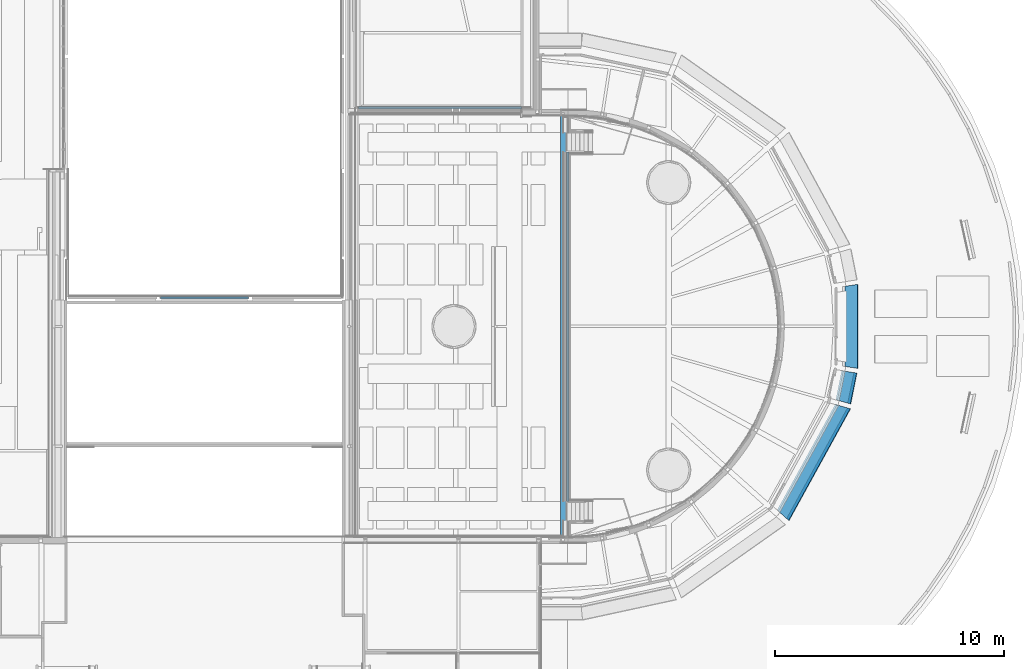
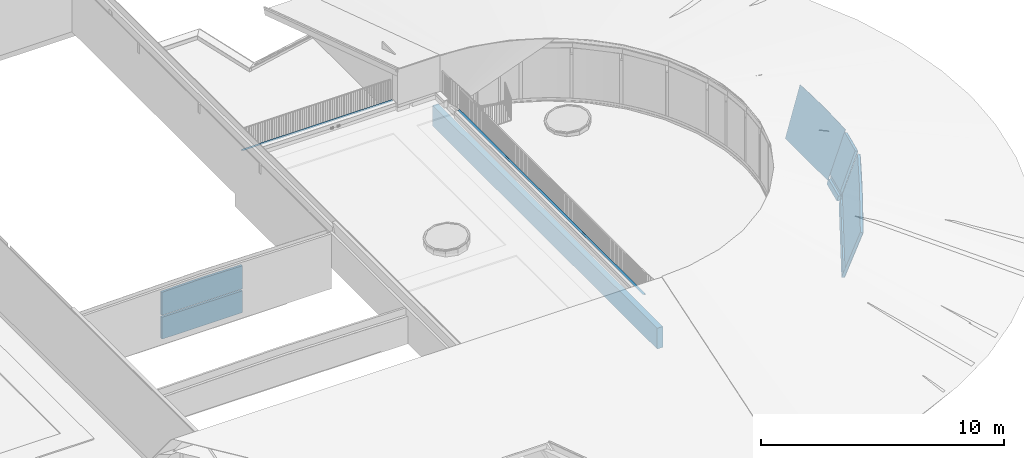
# One storey, part 50 of 66: 9 walls.
"""IFC2X3 building model written with IfcOpenShell, lengths in millimetres."""

from ifc_helpers import new_model, entity, si_unit, converted_unit, derived_unit, direction, frame, origin, place, context, subcontext, project, spatial, faceted_brep, material, layer, layer_set, type_object, element, save


model = new_model("IFC2X3")

# Units and contexts
model_context = context("Model", 3, precision=0.01, world=origin(), true_north=direction((6.12303176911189e-17, 1.0)))
body_context = subcontext(model_context, "Body", "Model", "MODEL_VIEW")
ifc_project = project(units=[si_unit("LENGTHUNIT", "METRE", prefix="MILLI"), si_unit("AREAUNIT", "SQUARE_METRE"), si_unit("VOLUMEUNIT", "CUBIC_METRE"), converted_unit("PLANEANGLEUNIT", "DEGREE", entity("IfcRatioMeasure", 0.0174532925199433), si_unit("PLANEANGLEUNIT", "RADIAN"), dimensions=[0, 0, 0, 0, 0, 0, 0]), si_unit("MASSUNIT", "GRAM", prefix="KILO"), derived_unit("MASSDENSITYUNIT", [(si_unit("MASSUNIT", "GRAM", prefix="KILO"), 1), (si_unit("LENGTHUNIT", "METRE"), -3)]), derived_unit("MOMENTOFINERTIAUNIT", [(si_unit("LENGTHUNIT", "METRE"), 4)]), si_unit("TIMEUNIT", "SECOND"), si_unit("FREQUENCYUNIT", "HERTZ"), si_unit("THERMODYNAMICTEMPERATUREUNIT", "DEGREE_CELSIUS"), derived_unit("THERMALTRANSMITTANCEUNIT", [(si_unit("MASSUNIT", "GRAM", prefix="KILO"), 1), (si_unit("THERMODYNAMICTEMPERATUREUNIT", "KELVIN"), -1), (si_unit("TIMEUNIT", "SECOND"), -3)]), derived_unit("VOLUMETRICFLOWRATEUNIT", [(si_unit("LENGTHUNIT", "METRE"), 3), (si_unit("TIMEUNIT", "SECOND"), -1)]), si_unit("ELECTRICCURRENTUNIT", "AMPERE"), si_unit("ELECTRICVOLTAGEUNIT", "VOLT"), si_unit("POWERUNIT", "WATT"), si_unit("FORCEUNIT", "NEWTON", prefix="KILO"), si_unit("ILLUMINANCEUNIT", "LUX"), si_unit("LUMINOUSFLUXUNIT", "LUMEN"), si_unit("LUMINOUSINTENSITYUNIT", "CANDELA"), derived_unit("USERDEFINED", [(si_unit("MASSUNIT", "GRAM", prefix="KILO"), -1), (si_unit("LENGTHUNIT", "METRE"), -2), (si_unit("TIMEUNIT", "SECOND"), 3), (si_unit("LUMINOUSFLUXUNIT", "LUMEN"), 1)]), derived_unit("LINEARVELOCITYUNIT", [(si_unit("LENGTHUNIT", "METRE"), 1), (si_unit("TIMEUNIT", "SECOND"), -1)]), si_unit("PRESSUREUNIT", "PASCAL"), derived_unit("USERDEFINED", [(si_unit("LENGTHUNIT", "METRE"), -2), (si_unit("MASSUNIT", "GRAM", prefix="KILO"), 1), (si_unit("TIMEUNIT", "SECOND"), -2)]), derived_unit("LINEARFORCEUNIT", [(si_unit("MASSUNIT", "GRAM", prefix="KILO"), 1), (si_unit("LENGTHUNIT", "METRE"), 1), (si_unit("TIMEUNIT", "SECOND"), -2), (si_unit("LENGTHUNIT", "METRE"), -1)]), derived_unit("PLANARFORCEUNIT", [(si_unit("MASSUNIT", "GRAM", prefix="KILO"), 1), (si_unit("LENGTHUNIT", "METRE"), 1), (si_unit("TIMEUNIT", "SECOND"), -2), (si_unit("LENGTHUNIT", "METRE"), -2)])], contexts=[model_context])

# Site, building, storey
site_placement = place(None, origin())
site = spatial("IfcSite", under=ifc_project, at=site_placement, Name="Default", CompositionType="ELEMENT")
building_placement = place(site_placement, origin())
building = spatial("IfcBuilding", under=site, at=building_placement, Name="-", CompositionType="ELEMENT")
storey_placement = place(building_placement, frame((0.0, 0.0, 3070.0)))
storey = spatial("IfcBuildingStorey", under=building, at=storey_placement, Name="01 eerste verdieping", CompositionType="ELEMENT", Elevation=3070.00000000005)

# Walls
ifc_material_1 = material(Name="NLRS_i4_hout_multiplex")
ifc_layer_1 = layer(ifc_material_1, 9.0)
ifc_material_2 = material(Name="NLRS_m1_isolatie")
ifc_layer_2 = layer(ifc_material_2, 89.0)
ifc_layer_3 = layer(ifc_material_1, 9.0)
ifc_layer_set_1 = layer_set([ifc_layer_1, ifc_layer_2, ifc_layer_3], Name="Basic Wall:NLRS_21_WA_HSB-wand_110mm")
wall_type_1 = type_object("IfcWallType", Name="Basic Wall:NLRS_21_WA_HSB-wand_110mm", PredefinedType="STANDARD", material=ifc_layer_set_1)
wall_1_placement = place(storey_placement, frame((36697.0, 20876.8202504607, 345.0), z_axis=(0.0, 0.0, 1.0), x_axis=(-1.0, 0.0, 0.0)))
element("IfcWall", 1, at=wall_1_placement, inside=storey, type_object=wall_type_1, Name="Basic Wall:NLRS_21_WA_HSB-wand_110mm", ObjectType="Basic Wall:NLRS_21_WA_HSB-wand_110mm", context=body_context, shape_type="Brep", body=[
    faceted_brep([(0.0, -53.5000000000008, 1200.0), (3834.0, -53.5000000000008, 1200.0), (3834.0, -53.5000000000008, 2355.23256308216), (1992.00471047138, -53.5000000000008, 2382.96524468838), (0.0, -53.5000000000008, 2355.28132040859), (0.0, 53.5000000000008, 2355.28132040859), (0.0, 53.5000000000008, 1200.0), (3834.0, 53.5000000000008, 2355.23256308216), (1992.00471047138, 53.5000000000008, 2382.96524468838), (3834.0, 53.5000000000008, 1200.0)], [[[0, 1, 2, 3, 4]], [[0, 4, 5, 6]], [[3, 2, 7, 8]], [[4, 3, 8, 5]], [[1, 0, 6, 9]], [[2, 1, 9, 7]], [[6, 5, 8, 7, 9]]]),
    faceted_brep([(3834.0, 53.5000000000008, 0.0), (0.0, 53.5000000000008, 0.0), (0.0, 53.5000000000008, 1100.0), (3834.0, 53.5000000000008, 1100.0), (3834.0, -53.5000000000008, 0.0), (0.0, -53.5000000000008, 0.0), (3834.0, -53.5000000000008, 1100.0), (0.0, -53.5000000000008, 1100.0)], [[[0, 1, 2, 3]], [[4, 5, 1, 0]], [[6, 4, 0, 3]], [[7, 6, 3, 2]], [[5, 7, 2, 1]], [[4, 6, 7, 5]]]),
])
ifc_material_3 = material(Name="NLRS_f7_gipsplaat_gen")
ifc_layer_4 = layer(ifc_material_3, 12.5)
ifc_layer_5 = layer(ifc_material_2, 89.0)
ifc_layer_6 = layer(ifc_material_3, 12.5)
ifc_layer_set_2 = layer_set([ifc_layer_4, ifc_layer_5, ifc_layer_6], Name="Basic Wall:NLRS_21_WA_HSB-wand_114mm")
wall_type_2 = type_object("IfcWallType", Name="Basic Wall:NLRS_21_WA_HSB-wand_114mm", PredefinedType="STANDARD", material=ifc_layer_set_2)
wall_2_placement = place(storey_placement, frame((59848.3416721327, 11330.7534068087, -370.0), z_axis=(0.0, 0.0, 1.0), x_axis=(0.481945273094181, 0.876201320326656, 0.0)))
element("IfcWall", 2, at=wall_2_placement, inside=storey, type_object=wall_type_2, Name="Basic Wall:NLRS_21_WA_HSB-wand_114mm", ObjectType="Basic Wall:NLRS_21_WA_HSB-wand_114mm", context=body_context, shape_type="Brep", body=[
    faceted_brep([(176.081026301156, 60.2869408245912, 0.0), (5496.69712505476, 60.2869408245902, 0.0), (5672.6679390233, -701.926394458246, 2345.85143381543), (5190.49208128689, -706.460796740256, 2359.8068890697), (4708.3162235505, -710.995199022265, 2373.76234432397), (4096.82103948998, -716.745725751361, 2391.46064576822), (3308.89758972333, -724.155391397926, 2414.26525174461), (2914.93586484, -727.860224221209, 2425.6675547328), (2520.97413995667, -731.565057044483, 2437.069857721), (2324.79369253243, -729.295746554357, 2430.08563818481), (2128.6132451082, -727.026436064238, 2423.10141864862), (1736.25235025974, -722.487815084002, 2409.13297957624), (1343.89145541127, -717.949194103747, 2395.16454050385), (951.530560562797, -713.410573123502, 2381.19610143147), (475.765280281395, -707.907174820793, 2364.25838307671), (0.0, -702.403776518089, 2347.32066472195), (24.9682156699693, -594.254552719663, 2383.38332851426), (172.44401529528, 33.2899316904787, 452.0), (203.754433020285, 180.153634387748, 0.0), (415.46831583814, -597.859455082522, 2394.47807716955), (805.968416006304, -601.464357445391, 2405.57282582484), (1196.46851617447, -605.069259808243, 2416.66757448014), (1586.96861634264, -608.674162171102, 2427.76232313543), (1977.46871651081, -612.27906453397, 2438.85707179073), (2172.71876659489, -614.081515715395, 2444.40444611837), (2367.96881667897, -615.883966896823, 2449.95182044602), (2563.21886676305, -617.686418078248, 2455.49919477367), (2758.46891684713, -619.488869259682, 2461.04656910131), (3148.9690170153, -623.093771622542, 2472.14131775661), (5497.79835518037, 33.2899316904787, 452.0), (3773.65170222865, -615.764658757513, 2449.58462774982), (4398.33438744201, -608.435545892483, 2427.02793774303), (5023.01707265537, -601.106433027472, 2404.47124773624), (5647.69975786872, -593.777320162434, 2381.91455772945), (5469.02371833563, 180.153634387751, 0.0), (5481.22034460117, 105.097184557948, 231.0), (189.002534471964, 105.09718455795, 231.0), (12.4841079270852, -648.329164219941, 2365.35199988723), (5504.30716371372, 5.0971845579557, 231.0), (5504.30716371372, 5.0971845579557, 452.0), (165.94285941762, 5.09718455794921, 231.0), (165.94285941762, 5.09718455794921, 452.0), (5660.18384838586, -647.851857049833, 2363.88299790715)], [[[0, 1, 2, 3, 4, 5, 6, 7, 8, 9, 10, 11, 12, 13, 14, 15]], [[16, 17, 18]], [[17, 16, 19]], [[17, 19, 20]], [[17, 20, 21]], [[17, 21, 22]], [[17, 22, 23]], [[17, 23, 24]], [[17, 24, 25]], [[17, 25, 26]], [[17, 26, 27]], [[17, 27, 28]], [[28, 29, 17]], [[29, 28, 30]], [[29, 30, 31]], [[29, 31, 32]], [[29, 32, 33]], [[34, 29, 33]], [[34, 35, 29]], [[18, 35, 34]], [[18, 36, 35]], [[36, 18, 17]], [[0, 18, 34, 1]], [[0, 15, 37, 16, 18]], [[29, 35, 38, 39]], [[39, 38, 40, 41]], [[17, 41, 40, 36]], [[29, 39, 41, 17]], [[36, 40, 38, 35]], [[4, 31, 5]], [[8, 27, 26, 25]], [[28, 6, 30]], [[13, 21, 20]], [[3, 2, 42]], [[32, 31, 4]], [[14, 19, 37]], [[16, 37, 19]], [[25, 9, 8]], [[11, 10, 23]], [[37, 15, 14]], [[13, 20, 14]], [[7, 28, 27]], [[5, 31, 30]], [[22, 12, 11]], [[28, 7, 6]], [[33, 3, 42]], [[14, 20, 19]], [[32, 4, 3]], [[3, 33, 32]], [[12, 22, 21]], [[5, 30, 6]], [[27, 8, 7]], [[21, 13, 12]], [[11, 23, 22]], [[24, 9, 25]], [[10, 24, 23]], [[9, 24, 10]], [[33, 42, 2, 1, 34]]]),
])
wall_3_placement = place(storey_placement, frame((62513.8499300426, 16312.6309043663, -370.0), z_axis=(0.0, 0.0, 1.0), x_axis=(0.197234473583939, 0.980356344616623, 0.0)))
element("IfcWall", 3, at=wall_3_placement, inside=storey, type_object=wall_type_2, Name="Basic Wall:NLRS_21_WA_HSB-wand_114mm", ObjectType="Basic Wall:NLRS_21_WA_HSB-wand_114mm", context=body_context, shape_type="Brep", body=[
    faceted_brep([(57.4449768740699, 33.2899316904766, 452.0), (8.4110085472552, -598.593519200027, 2396.73729421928), (780.651706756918, -601.471035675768, 2405.59337930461), (1398.48558250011, -600.593854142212, 2402.89369213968), (1368.43379271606, 33.2899316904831, 452.0), (68.8415566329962, 180.153634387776, 0.0), (63.0171983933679, 105.097184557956, 231.0), (1365.02948341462, 105.097184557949, 231.0), (1361.47113296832, 180.153634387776, 0.0), (0.0, -706.983218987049, 2361.41473941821), (59.5399367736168, 60.2869408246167, 0.0), (1367.1538917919, 60.2869408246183, 0.0), (1403.62515270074, -709.003045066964, 2367.6311248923), (623.803365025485, -709.666413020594, 2369.67276152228), (55.257228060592, 5.09718455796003, 452.0), (1369.77038237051, 5.09718455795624, 452.0), (1369.77038237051, 5.09718455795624, 231.0), (55.2572280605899, 5.09718455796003, 231.0), (1401.05536757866, -654.798449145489, 2385.26241134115), (4.20550430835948, -652.788368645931, 2379.07601962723)], [[[0, 1, 2, 3, 4]], [[5, 6, 7, 8]], [[9, 10, 11, 12, 13]], [[10, 5, 8, 11]], [[14, 15, 16, 17]], [[0, 4, 15, 14]], [[16, 7, 6, 17]], [[7, 16, 15, 4, 3, 18, 12, 11, 8]], [[19, 1, 0, 14, 17, 6, 5, 10, 9]], [[3, 2, 18]], [[13, 12, 18]], [[18, 2, 13]], [[1, 19, 13]], [[9, 13, 19]], [[1, 13, 2]]]),
])
ifc_layer_7 = layer(ifc_material_1, 10.0)
ifc_layer_8 = layer(ifc_material_2, 235.0)
ifc_layer_9 = layer(ifc_material_1, 10.0)
ifc_layer_10 = layer(ifc_material_3, 12.5)
ifc_layer_set_3 = layer_set([ifc_layer_7, ifc_layer_8, ifc_layer_9, ifc_layer_10], Name="Basic Wall:NLRS_21_WA_HSB-wand_268mm")
wall_type_3 = type_object("IfcWallType", Name="Basic Wall:NLRS_21_WA_HSB-wand_268mm", PredefinedType="STANDARD", material=ifc_layer_set_3)
wall_4_placement = place(storey_placement, frame((50465.3703901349, 28817.4953625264, 82.0), z_axis=(0.0, 0.0, 1.0), x_axis=(0.0, -1.0, 0.0)))
element("IfcWall", 4, at=wall_4_placement, inside=storey, type_object=wall_type_3, Name="Basic Wall:NLRS_21_WA_HSB-wand_268mm", ObjectType="Basic Wall:NLRS_21_WA_HSB-wand_268mm", context=body_context, shape_type="Brep", body=[
    faceted_brep([(0.0, -133.750000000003, 0.0), (18453.8712671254, -133.750000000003, 0.0), (18453.8712671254, -133.750000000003, 1040.0), (0.0, -133.750000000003, 1040.0), (18453.8712671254, 133.749999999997, 1040.0), (18453.8712671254, 133.749999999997, 18.0), (18453.8712671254, 133.749999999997, 0.0), (18400.799275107, 133.749999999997, 0.0), (18400.799275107, 133.749999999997, 18.0), (9256.43563356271, 133.749999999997, 18.0), (9256.43563356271, 133.749999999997, 0.0), (9146.43563356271, 133.749999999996, 0.0), (9146.4356335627, 133.749999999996, 18.0), (49.2381053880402, 133.749999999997, 18.0), (49.2381053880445, 133.749999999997, 0.0), (0.0, 133.749999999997, 0.0), (0.0, 133.749999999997, 1040.0), (18402.8712671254, 133.749999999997, 1040.0), (36.097360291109, 53.7500000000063, 0.0), (9146.43563356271, 53.750000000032, 0.0), (9256.43563356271, 53.0848780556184, 0.0), (18415.0802653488, 53.0848780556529, 0.0), (18453.8712671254, 106.250000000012, 1040.0), (9256.43563356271, 53.0848780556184, 18.0), (18415.0802653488, 53.0848780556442, 18.0), (9146.4356335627, 53.7500000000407, 18.0), (36.0973602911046, 53.7499999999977, 18.0)], [[[0, 1, 2, 3]], [[4, 5, 6, 7, 8, 9, 10, 11, 12, 13, 14, 15, 16, 17]], [[1, 0, 15, 14, 18, 19, 11, 10, 20, 21, 7, 6]], [[2, 1, 6, 5, 4, 22]], [[3, 2, 22, 4, 17, 16]], [[0, 3, 16, 15]], [[23, 24, 21, 20]], [[23, 20, 10, 9]], [[24, 23, 9, 8]], [[21, 24, 8, 7]], [[19, 25, 12, 11]], [[26, 25, 19, 18]], [[25, 26, 13, 12]], [[13, 26, 18, 14]]]),
])
ifc_material_4 = material(Name="AL_Aluminium zwart 2")
wall_type_4 = type_object("IfcWallType", Name="Daktrim1:Daktrim", PredefinedType="NOTDEFINED", material=ifc_material_4)
wall_5_placement = place(storey_placement, frame((41501.6203901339, 29117.9216262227, 1687.0)))
element("IfcWall", 5, at=wall_5_placement, inside=storey, type_object=wall_type_4, material=ifc_material_4, Name="Daktrim1:Daktrim", ObjectType="Daktrim1:Daktrim", context=body_context, shape_type="Brep", body=[
    faceted_brep([(0.0, 108.99999967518, 0.0), (0.0, 106.034689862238, 0.0), (0.0, 98.7851562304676, 6.0821522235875), (0.0, 99.4282608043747, 6.84793074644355), (0.0, 106.398617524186, 1.0), (0.0, 108.0, 1.0), (0.0, 108.0, 67.0), (0.0, 99.9999996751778, 67.0), (0.0, 99.9999996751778, 63.5253906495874), (0.0, 98.999999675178, 63.5253906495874), (0.0, 98.999999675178, 67.0), (0.0, 0.0, 67.0), (0.0, 0.0, 68.3496093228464), (0.0, 107.99999967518, 68.3496093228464), (0.0, 107.99999967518, 79.0), (0.0, 98.999999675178, 79.0), (0.0, 98.999999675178, 80.0), (0.0, 108.99999967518, 80.0), (7124.94227187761, 108.999999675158, 0.0), (7124.94227187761, 106.034689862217, 0.0), (7124.94227187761, 98.7851562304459, 6.0821522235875), (7124.94227187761, 99.4282608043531, 6.84793074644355), (7124.94227187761, 106.398617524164, 1.0), (7124.94227187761, 108.0, 1.0), (7124.94227187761, 108.0, 67.0), (7124.94227187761, 99.9999996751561, 67.0), (7124.94227187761, 99.9999996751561, 63.5253906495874), (7124.94227187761, 98.9999996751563, 63.5253906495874), (7124.94227187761, 98.9999996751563, 67.0), (7124.94227187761, 0.0, 67.0), (7124.94227187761, 0.0, 68.3496093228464), (7124.94227187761, 107.999999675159, 68.3496093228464), (7124.94227187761, 107.999999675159, 79.0), (7124.94227187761, 98.9999996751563, 79.0), (7124.94227187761, 98.9999996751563, 80.0), (7124.94227187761, 108.999999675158, 80.0)], [[[0, 1, 2, 3, 4, 5, 6, 7, 8, 9, 10, 11, 12, 13, 14, 15, 16, 17]], [[1, 0, 18, 19]], [[2, 1, 19, 20]], [[3, 2, 20, 21]], [[4, 3, 21, 22]], [[5, 4, 22, 23]], [[6, 5, 23, 24]], [[7, 6, 24, 25]], [[8, 7, 25, 26]], [[9, 8, 26, 27]], [[10, 9, 27, 28]], [[11, 10, 28, 29]], [[12, 11, 29, 30]], [[13, 12, 30, 31]], [[14, 13, 31, 32]], [[15, 14, 32, 33]], [[16, 15, 33, 34]], [[17, 16, 34, 35]], [[0, 17, 35, 18]], [[18, 35, 34, 33, 32, 31, 30, 29, 28, 27, 26, 25, 24, 23, 22, 21, 20, 19]]]),
])
ifc_material_5 = material(Name="ZZ_Default Wall")
wall_type_5 = type_object("IfcWallType", Name="Daktrim2:Daktrim", PredefinedType="NOTDEFINED", material=ifc_material_5)
wall_6_placement = place(storey_placement, frame((50593.1203904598, 11980.9965964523, 1677.0), z_axis=(0.0, 0.0, 1.0), x_axis=(0.0, 1.0, 0.0)))
element("IfcWall", 6, at=wall_6_placement, inside=storey, type_object=wall_type_5, material=ifc_material_5, Name="Daktrim2:Daktrim", ObjectType="Daktrim2:Daktrim", context=body_context, shape_type="Brep", body=[
    faceted_brep([(15250.0, -108.999999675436, 0.0), (15250.0, -106.034689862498, 0.0), (15250.0, -98.7851562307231, 6.0821522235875), (15250.0, -99.4282608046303, 6.84793074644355), (15250.0, -106.398617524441, 1.0), (15250.0, -108.0, 1.0), (15250.0, -108.0, 67.0), (15250.0, -99.9999996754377, 67.0), (15250.0, -99.9999996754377, 63.5253906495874), (15250.0, -98.9999996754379, 63.5253906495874), (15250.0, -98.9999996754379, 67.0), (15250.0, 0.0, 67.0), (15250.0, 0.0, 68.3496093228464), (15250.0, -107.999999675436, 68.3496093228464), (15250.0, -107.999999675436, 79.0), (15250.0, -98.9999996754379, 79.0), (15250.0, -98.9999996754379, 80.0), (15250.0, -108.999999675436, 80.0), (0.0, -108.999999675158, 0.0), (0.0, -106.034689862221, 0.0), (0.0, -98.7851562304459, 6.0821522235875), (0.0, -99.4282608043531, 6.84793074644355), (0.0, -106.398617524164, 1.0), (0.0, -108.0, 1.0), (0.0, -108.0, 67.0), (0.0, -99.9999996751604, 67.0), (0.0, -99.9999996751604, 63.5253906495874), (0.0, -98.9999996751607, 63.5253906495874), (0.0, -98.9999996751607, 67.0), (0.0, 0.0, 67.0), (0.0, 0.0, 68.3496093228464), (0.0, -107.999999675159, 68.3496093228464), (0.0, -107.999999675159, 79.0), (0.0, -98.9999996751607, 79.0), (0.0, -98.9999996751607, 80.0), (0.0, -108.999999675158, 80.0)], [[[0, 1, 2, 3, 4, 5, 6, 7, 8, 9, 10, 11, 12, 13, 14, 15, 16, 17]], [[1, 0, 18, 19]], [[2, 1, 19, 20]], [[3, 2, 20, 21]], [[4, 3, 21, 22]], [[5, 4, 22, 23]], [[6, 5, 23, 24]], [[7, 6, 24, 25]], [[8, 7, 25, 26]], [[9, 8, 26, 27]], [[10, 9, 27, 28]], [[11, 10, 28, 29]], [[12, 11, 29, 30]], [[13, 12, 30, 31]], [[14, 13, 31, 32]], [[15, 14, 32, 33]], [[16, 15, 33, 34]], [[17, 16, 34, 35]], [[0, 17, 35, 18]], [[18, 35, 34, 33, 32, 31, 30, 29, 28, 27, 26, 25, 24, 23, 22, 21, 20, 19]]]),
])
ifc_material_6 = material(Name="NLRS_Akoestisch paneel RAL 9010")
ifc_layer_11 = layer(ifc_material_6, 18.0)
ifc_layer_set_4 = layer_set([ifc_layer_11], Name="Basic Wall:NLRS_42_WA_Akoestische panelen")
wall_type_6 = type_object("IfcWallType", Name="Basic Wall:NLRS_42_WA_Akoestische panelen", PredefinedType="STANDARD", material=ifc_layer_set_4)
wall_7_placement = place(storey_placement, frame((62891.2007435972, 17746.9497417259, -370.0), z_axis=(0.0, 0.0, 1.0), x_axis=(0.0, 1.0, 0.0)))
element("IfcWall", 7, at=wall_7_placement, inside=storey, type_object=wall_type_6, material=ifc_material_6, Name="Basic Wall:NLRS_42_WA_Akoestische panelen", ObjectType="Basic Wall:NLRS_42_WA_Akoestische panelen", context=body_context, shape_type="Brep", body=[
    faceted_brep([(116.69720429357, 110.757127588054, 0.0), (3626.15850808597, 110.757127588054, 0.0), (3742.83433474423, -655.288054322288, 2357.64464509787), (3697.5688884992, -655.841920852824, 2359.3492710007), (3652.30344225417, -656.395787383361, 2361.05389690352), (3561.7725497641, -657.503520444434, 2364.46314870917), (3444.46189430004, -658.938929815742, 2368.88088450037), (3327.15123883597, -660.37433918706, 2373.29862029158), (3223.19604483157, -661.331663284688, 2376.24496090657), (3119.24085082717, -662.288987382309, 2379.19130152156), (3015.28565682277, -663.246311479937, 2382.13764213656), (2911.33046281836, -664.203635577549, 2385.08398275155), (2703.36885689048, -665.484340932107, 2389.02558853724), (2495.40725096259, -666.765046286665, 2392.96719432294), (2079.42220116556, -668.051171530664, 2396.92548081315), (1663.41649865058, -668.058275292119, 2396.94734394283), (1247.43138511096, -666.786338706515, 2393.03272565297), (1039.46878930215, -665.512692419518, 2389.1128454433), (831.50619349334, -664.23904613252, 2385.19296523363), (727.550949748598, -663.285230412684, 2382.2574222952), (623.595706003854, -662.331414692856, 2379.32187935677), (519.640462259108, -661.37759897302, 2376.38633641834), (415.685218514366, -660.423783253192, 2373.45079347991), (298.488636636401, -658.993690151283, 2369.04941948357), (181.292054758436, -657.563597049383, 2364.64804548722), (90.6460273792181, -656.457487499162, 2361.24379033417), (45.323013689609, -655.904432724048, 2359.54166275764), (0.0, -655.351377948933, 2357.83953518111), (119.580149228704, 129.683447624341, 0.0), (2.60478572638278, -638.251152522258, 2363.45967649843), (106.381457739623, -639.517403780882, 2367.35679715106), (210.158129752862, -640.783655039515, 2371.25391780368), (313.934801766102, -642.049906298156, 2375.1510384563), (417.711473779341, -643.316157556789, 2379.04815910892), (521.522060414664, -644.2685808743, 2381.97941667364), (625.332647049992, -645.221004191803, 2384.91067423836), (729.143233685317, -646.173427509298, 2387.84193180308), (832.953820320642, -647.125850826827, 2390.7731893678), (1040.62690047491, -648.397634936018, 2394.68733838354), (1248.29998062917, -649.669419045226, 2398.60148739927), (1663.70617184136, -650.939491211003, 2402.51036759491), (2079.13284464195, -650.932387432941, 2402.48850441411), (2494.53877277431, -649.648127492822, 2398.53595873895), (2702.21111985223, -648.369282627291, 2394.60007894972), (2909.88346693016, -647.090437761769, 2390.6641991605), (3013.69385658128, -646.134507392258, 2387.72214799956), (3117.5042462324, -645.178577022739, 2384.78009683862), (3221.31463588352, -644.222646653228, 2381.83804567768), (3325.12502553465, -643.266716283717, 2378.89599451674), (3428.90122189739, -641.996994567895, 2374.98819289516), (3532.67741826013, -640.727272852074, 2371.08039127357), (3636.45361462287, -639.457551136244, 2367.17258965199), (3740.22981098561, -638.187829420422, 2363.26478803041), (3623.27585300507, 129.683447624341, 0.0), (3741.5320728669, -646.737941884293, 2360.45471660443), (1.30239286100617, -646.801265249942, 2360.64960588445)], [[[0, 1, 2, 3, 4, 5, 6, 7, 8, 9, 10, 11, 12, 13, 14, 15, 16, 17, 18, 19, 20, 21, 22, 23, 24, 25, 26, 27]], [[28, 29, 30, 31, 32, 33, 34, 35, 36, 37, 38, 39, 40, 41, 42, 43, 44, 45, 46, 47, 48, 49, 50, 51, 52, 53]], [[0, 28, 53, 1]], [[44, 12, 11]], [[43, 13, 12]], [[42, 41, 14]], [[47, 8, 48]], [[14, 41, 15]], [[42, 14, 13]], [[52, 4, 54]], [[13, 43, 42]], [[3, 2, 54, 4]], [[18, 37, 36]], [[22, 33, 32]], [[48, 7, 49]], [[7, 48, 8]], [[5, 50, 6]], [[46, 10, 9]], [[4, 52, 51]], [[10, 45, 11]], [[9, 47, 46]], [[21, 20, 34]], [[6, 49, 7]], [[40, 15, 41]], [[15, 40, 39]], [[37, 17, 38]], [[33, 22, 21]], [[38, 16, 39]], [[39, 16, 15]], [[8, 47, 9]], [[37, 18, 17]], [[19, 36, 35]], [[34, 33, 21]], [[29, 25, 30]], [[5, 51, 50]], [[31, 23, 32]], [[36, 19, 18]], [[16, 38, 17]], [[29, 55, 25]], [[32, 23, 22]], [[11, 45, 44]], [[55, 27, 26, 25]], [[24, 30, 25]], [[4, 51, 5]], [[12, 44, 43]], [[20, 35, 34]], [[24, 31, 30]], [[31, 24, 23]], [[49, 6, 50]], [[45, 10, 46]], [[35, 20, 19]], [[0, 27, 55, 29, 28]], [[52, 54, 2, 1, 53]]]),
])
wall_8_placement = place(storey_placement, frame((59907.6047252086, 11293.5474045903, -370.0), z_axis=(0.0, 0.0, 1.0), x_axis=(0.481945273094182, 0.876201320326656, 0.0)))
element("IfcWall", 8, at=wall_8_placement, inside=storey, type_object=wall_type_6, Name="Basic Wall:NLRS_42_WA_Akoestische panelen", ObjectType="Basic Wall:NLRS_42_WA_Akoestische panelen", context=body_context, shape_type="Brep", body=[
    faceted_brep([(175.643484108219, 110.757127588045, 0.0), (5505.21146718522, 110.75712758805, 0.0), (5680.74473343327, -649.560980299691, 2340.01852366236), (5654.51847788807, -650.049275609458, 2341.5213420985), (5628.29222234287, -650.537570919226, 2343.02416053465), (5575.83971125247, -651.514161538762, 2346.02979740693), (5470.93468907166, -653.467342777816, 2352.04107115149), (5418.48217798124, -654.443933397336, 2355.04670802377), (5366.02966689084, -655.420524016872, 2358.05234489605), (5313.57715580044, -656.397114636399, 2361.05798176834), (5261.12464471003, -657.373705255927, 2364.06361864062), (5155.66914396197, -659.337135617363, 2370.10643594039), (5102.94139358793, -660.318850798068, 2373.12784459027), (5050.21364321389, -661.300565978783, 2376.14925324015), (4971.33710656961, -662.411408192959, 2379.56807403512), (4892.46056992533, -663.522250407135, 2382.98689483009), (4813.58403328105, -664.633092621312, 2386.40571562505), (4734.70749663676, -665.743934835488, 2389.82453642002), (4655.83095999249, -666.854777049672, 2393.24335721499), (4576.9544233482, -667.965619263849, 2396.66217800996), (4498.07788670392, -669.076461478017, 2400.08099880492), (4419.20135005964, -670.187303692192, 2403.49981959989), (4261.35752534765, -671.681318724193, 2408.09792506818), (4103.51370063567, -673.175333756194, 2412.69603053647), (3945.66987592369, -674.669348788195, 2417.29413600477), (3787.82605121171, -676.163363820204, 2421.89224147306), (3472.02923087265, -677.676057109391, 2426.547832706), (3156.2324105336, -679.188750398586, 2431.20342393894), (2524.563160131, -679.242988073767, 2431.37035033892), (2208.7635802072, -677.784347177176, 2426.88111526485), (1892.96400028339, -676.325706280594, 2422.39188019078), (1735.11833590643, -674.858453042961, 2417.87613905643), (1577.27267152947, -673.391199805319, 2413.36039792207), (1419.42700715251, -671.923946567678, 2408.84465678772), (1261.58134277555, -670.456693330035, 2404.32891565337), (1182.70251988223, -669.359000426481, 2400.95056427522), (1103.82369698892, -668.261307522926, 2397.57221289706), (1024.9448740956, -667.163614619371, 2394.19386151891), (946.066051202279, -666.065921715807, 2390.81551014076), (867.187228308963, -664.968228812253, 2387.43715876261), (788.308405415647, -663.870535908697, 2384.05880738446), (709.429582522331, -662.772843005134, 2380.6804560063), (630.550759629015, -661.67515010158, 2377.30210462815), (578.068417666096, -660.706592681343, 2374.32119140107), (525.586075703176, -659.738035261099, 2371.34027817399), (420.621391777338, -657.80092042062, 2365.37845171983), (368.043717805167, -656.83060365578, 2362.39212378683), (315.466043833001, -655.860286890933, 2359.40579585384), (262.888369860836, -654.889970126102, 2356.41946792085), (210.310695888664, -653.919653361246, 2353.43313998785), (105.155347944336, -651.979019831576, 2347.46048412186), (52.5776739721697, -651.008703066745, 2344.47415618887), (26.2888369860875, -650.52354468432, 2342.98099222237), (0.0, -650.038386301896, 2341.48782825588), (180.012969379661, 129.683447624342, 0.0), (3.94234968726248, -632.962193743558, 2347.18193513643), (82.6517969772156, -634.414689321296, 2351.65225686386), (161.361244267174, -635.867184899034, 2356.12257859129), (240.070691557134, -637.31968047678, 2360.59290031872), (318.780138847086, -638.772176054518, 2365.06322204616), (397.48958613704, -640.224671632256, 2369.53354377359), (476.199033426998, -641.677167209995, 2374.00386550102), (554.908480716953, -643.129662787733, 2378.47418722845), (633.617928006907, -644.582158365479, 2382.94450895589), (712.387287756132, -645.678263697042, 2386.31797428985), (791.156647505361, -646.774369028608, 2389.69143962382), (869.926007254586, -647.87047436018, 2393.06490495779), (948.695367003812, -648.966579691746, 2396.43837029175), (1027.46472675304, -650.0626850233, 2399.81183562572), (1106.23408650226, -651.158790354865, 2403.18530095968), (1185.00344625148, -652.254895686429, 2406.55876629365), (1263.77280600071, -653.351001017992, 2409.93223162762), (1421.39941906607, -654.81612492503, 2414.4414193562), (1579.02603213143, -656.281248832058, 2418.95060708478), (1736.6526451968, -657.746372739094, 2423.45979481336), (1894.27925826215, -659.211496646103, 2427.96898254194), (2209.64036832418, -660.668000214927, 2432.45163959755), (2525.00147838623, -662.124503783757, 2436.93429665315), (3155.79402800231, -662.070269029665, 2436.76737924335), (3471.15239098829, -660.559715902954, 2432.11837475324), (3786.51075397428, -659.049162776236, 2427.46937026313), (3944.1355073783, -657.557278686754, 2422.87782316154), (4101.76026078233, -656.065394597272, 2418.28627605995), (4259.38501418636, -654.573510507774, 2413.69472895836), (4417.00976759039, -653.081626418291, 2409.10318185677), (4495.77693278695, -651.972370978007, 2405.6892446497), (4574.54409798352, -650.86311553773, 2402.27530744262), (4653.31126318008, -649.753860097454, 2398.86137023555), (4732.07842837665, -648.644604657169, 2395.44743302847), (4810.84559357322, -647.535349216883, 2392.0334958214), (4889.61275876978, -646.426093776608, 2388.61955861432), (4968.37992396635, -645.316838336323, 2385.20562140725), (5047.14708916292, -644.207582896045, 2381.79168420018), (5125.85400166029, -642.742236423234, 2377.28181148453), (5204.56091415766, -641.276889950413, 2372.77193876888), (5283.26782665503, -639.811543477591, 2368.26206605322), (5361.9747391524, -638.346197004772, 2363.75219333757), (5440.68165164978, -636.880850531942, 2359.24232062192), (5519.38856414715, -635.41550405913, 2354.73244790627), (5598.09547664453, -633.950157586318, 2350.22257519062), (5676.8023891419, -632.484811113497, 2345.71270247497), (5500.84198191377, 129.683447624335, 0.0), (1.97117483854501, -641.500290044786, 2344.33488176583), (5678.77356129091, -641.022895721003, 2342.86561311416)], [[[0, 1, 2, 3, 4, 5, 6, 7, 8, 9, 10, 11, 12, 13, 14, 15, 16, 17, 18, 19, 20, 21, 22, 23, 24, 25, 26, 27, 28, 29, 30, 31, 32, 33, 34, 35, 36, 37, 38, 39, 40, 41, 42, 43, 44, 45, 46, 47, 48, 49, 50, 51, 52, 53]], [[54, 55, 56, 57, 58, 59, 60, 61, 62, 63, 64, 65, 66, 67, 68, 69, 70, 71, 72, 73, 74, 75, 76, 77, 78, 79, 80, 81, 82, 83, 84, 85, 86, 87, 88, 89, 90, 91, 92, 93, 94, 95, 96, 97, 98, 99, 100, 101]], [[0, 54, 101, 1]], [[83, 22, 84]], [[24, 82, 81]], [[27, 26, 79]], [[55, 51, 56]], [[27, 78, 28]], [[80, 26, 25]], [[50, 56, 51]], [[75, 30, 29]], [[5, 99, 98]], [[92, 14, 13]], [[84, 22, 21]], [[92, 13, 93]], [[14, 91, 15]], [[10, 94, 11]], [[87, 19, 18]], [[25, 81, 80]], [[71, 34, 33]], [[97, 96, 8]], [[65, 40, 39]], [[40, 65, 64]], [[77, 28, 78]], [[76, 75, 29]], [[33, 72, 71]], [[74, 31, 30]], [[32, 73, 72]], [[28, 77, 76]], [[35, 34, 70]], [[32, 31, 73]], [[68, 36, 69]], [[63, 41, 64]], [[55, 102, 51]], [[21, 85, 84]], [[61, 44, 62]], [[23, 83, 82]], [[17, 89, 88]], [[57, 50, 49]], [[26, 80, 79]], [[27, 79, 78]], [[28, 76, 29]], [[45, 60, 46]], [[60, 59, 46]], [[3, 2, 103, 4]], [[83, 23, 22]], [[16, 90, 89]], [[6, 98, 97]], [[10, 95, 94]], [[88, 18, 17]], [[82, 24, 23]], [[69, 36, 35]], [[30, 75, 74]], [[32, 72, 33]], [[66, 39, 38]], [[62, 44, 43, 42]], [[49, 58, 57]], [[102, 53, 52, 51]], [[63, 42, 41]], [[9, 95, 10]], [[96, 9, 8]], [[90, 16, 15]], [[89, 17, 16]], [[15, 91, 90]], [[4, 100, 99]], [[11, 93, 13, 12]], [[86, 20, 19]], [[34, 71, 70]], [[42, 63, 62]], [[38, 67, 66]], [[40, 64, 41]], [[45, 61, 60]], [[59, 47, 46]], [[95, 9, 96]], [[100, 4, 103]], [[61, 45, 44]], [[37, 68, 67]], [[67, 38, 37]], [[14, 92, 91]], [[5, 98, 6]], [[93, 11, 94]], [[20, 86, 85]], [[81, 25, 24]], [[65, 39, 66]], [[58, 49, 48, 47]], [[73, 31, 74]], [[69, 35, 70]], [[85, 21, 20]], [[4, 99, 5]], [[6, 97, 8, 7]], [[19, 87, 86]], [[47, 59, 58]], [[50, 57, 56]], [[18, 88, 87]], [[36, 68, 37]], [[0, 53, 102, 55, 54]], [[100, 103, 2, 1, 101]]]),
])
wall_9_placement = place(storey_placement, frame((62581.6212977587, 16297.641554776, -370.0), z_axis=(0.0, 0.0, 1.0), x_axis=(0.197234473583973, 0.980356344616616, 0.0)))
element("IfcWall", 9, at=wall_9_placement, inside=storey, type_object=wall_type_6, Name="Basic Wall:NLRS_42_WA_Akoestische panelen", ObjectType="Basic Wall:NLRS_42_WA_Akoestische panelen", context=body_context, shape_type="Brep", body=[
    faceted_brep([(59.3993138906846, 110.757127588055, 0.0), (1369.37922343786, 110.757127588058, 0.0), (1405.76471769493, -656.72377836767, 2362.06334935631), (624.75424518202, -657.388527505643, 2364.10923683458), (346.097606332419, -656.189764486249, 2360.41982362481), (173.04880316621, -655.445319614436, 2358.12865789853), (0.0, -654.700874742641, 2355.83749217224), (60.8679907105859, 129.683447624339, 0.0), (1.32805393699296, -637.586712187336, 2361.41473941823), (391.212330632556, -639.040672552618, 2365.88956929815), (781.096607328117, -640.494632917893, 2370.36439917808), (1404.95320663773, -639.606538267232, 2367.6311248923), (1368.48194572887, 129.683447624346, 0.0), (1405.35896216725, -648.165158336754, 2364.84723718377), (0.664026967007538, -646.143793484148, 2358.62611585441)], [[[0, 1, 2, 3, 4, 5, 6]], [[7, 8, 9, 10, 11, 12]], [[0, 7, 12, 1]], [[11, 10, 13]], [[3, 2, 13]], [[13, 10, 3]], [[14, 5, 8]], [[4, 9, 8]], [[3, 9, 4]], [[14, 6, 5]], [[5, 4, 8]], [[3, 10, 9]], [[11, 13, 2, 1, 12]], [[0, 6, 14, 8, 7]]]),
])

save(model, "model.ifc")
